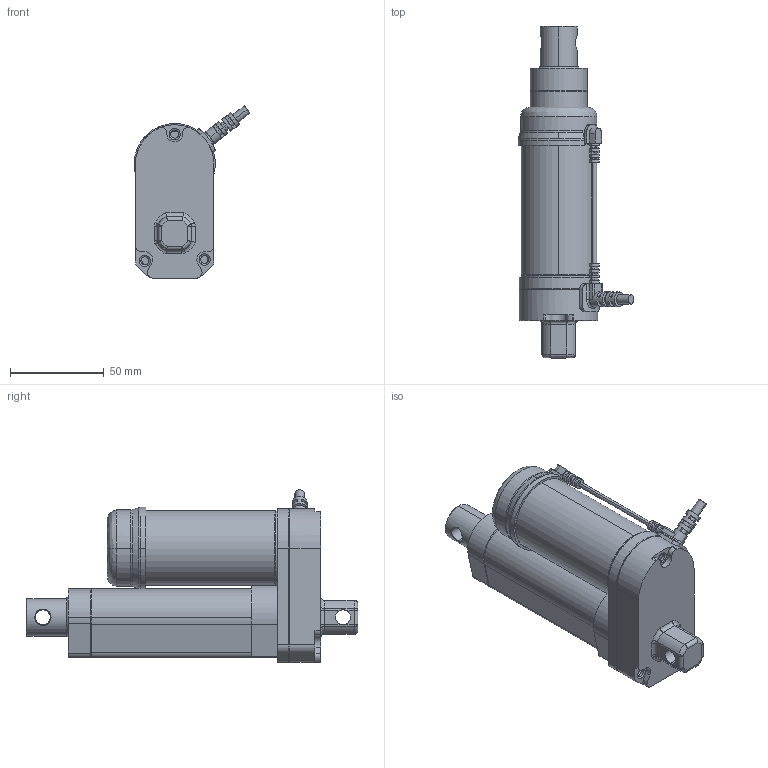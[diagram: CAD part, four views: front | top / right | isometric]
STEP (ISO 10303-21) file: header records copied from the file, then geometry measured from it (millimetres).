
FILE_DESCRIPTION (( 'STEP AP203' ), '1' );
FILE_NAME ('LD3-HS.STEP', '2022-07-05T01:10:20', ( '' ), ( '' ), 'SwSTEP 2.0', 'SolidWorks 2020', '' );
FILE_SCHEMA (( 'CONFIG_CONTROL_DESIGN' ));
Length unit declared in the file: millimetre
Products named in the file (16): LD3- 導向套; LD3- HS(T型-SR); LD3-防水油封; (原始)hall-sensor-sr; LD3-外管墊片; LD3-HS; LD3 - 自由變更外管; LD3- 標準管組; 下蓋墊片; LD3-導向套組合; LD3- HS馬達; Gear Box_1; 外管墊片; LD3- Hall Sensor防水外蓋; LD3-自由變更內管; Top
Assembly tree (15 placements, depth 4):
  LD3-HS
    LD3- 標準管組
      LD3-導向套組合
        LD3- 導向套
        LD3-防水油封
        LD3-外管墊片
      LD3 - 自由變更外管
      LD3-自由變更內管
    Gear Box_1
    下蓋墊片
    LD3- HS馬達
    LD3- HS(T型-SR)
    (原始)hall-sensor-sr
    LD3- Hall Sensor防水外蓋
    外管墊片
    Top
Bounding box: 61.99 x 177.5 x 92.19 mm (x, y, z)
Volume: 167416.4 mm3; surface area: 85428.7 mm2
Topology: 14 solids, 14 shells, 626 faces, 1668 edges, 1088 vertices
Faces by surface type: plane 282, cylinder 250, bspline 63, cone 31
Entity records: 24125 total; most frequent: CARTESIAN_POINT 6582, DIRECTION 3351, ORIENTED_EDGE 3336, EDGE_CURVE 1668, AXIS2_PLACEMENT_3D 1230, VERTEX_POINT 1088, VECTOR 891, LINE 891
